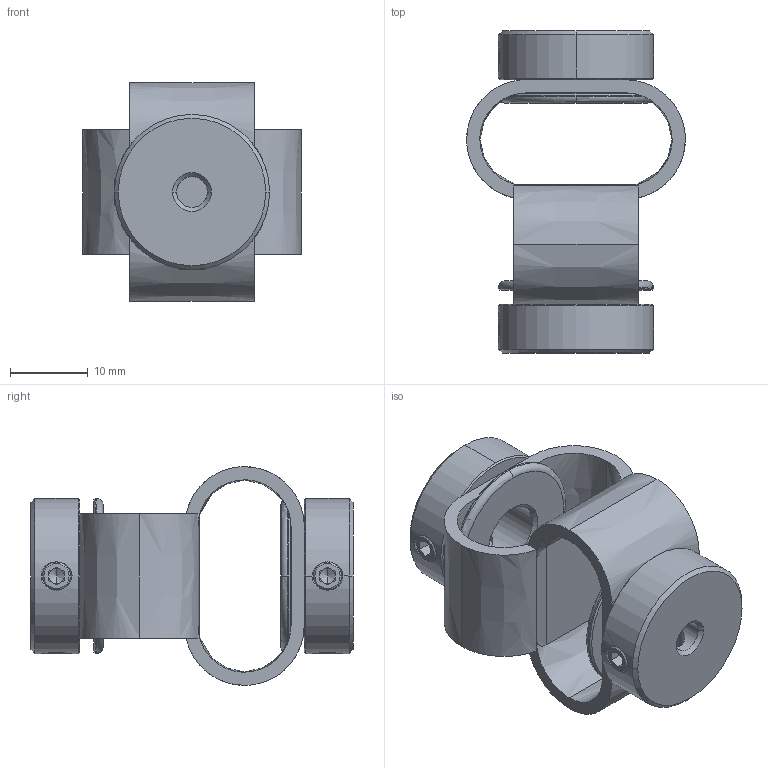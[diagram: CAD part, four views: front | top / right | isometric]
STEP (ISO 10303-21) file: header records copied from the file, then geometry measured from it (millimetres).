
FILE_DESCRIPTION (( 'STEP AP203' ), '1' );
FILE_NAME ('LS-D-D27L40-4-8.STEP', '2021-10-28T06:05:53', ( '' ), ( '' ), 'SwSTEP 2.0', 'SolidWorks 2018', '' );
FILE_SCHEMA (( 'CONFIG_CONTROL_DESIGN' ));
Length unit declared in the file: millimetre
Products named in the file (1): LS-D-D27L40-4-8
Bounding box: 28.2 x 41.54 x 28.2 mm (x, y, z)
Volume: 7249.3 mm3; surface area: 6683.6 mm2
Topology: 1 solids, 1 shells, 190 faces, 493 edges, 308 vertices
Faces by surface type: plane 86, cone 54, cylinder 30, bspline 16, torus 4
Entity records: 7788 total; most frequent: CARTESIAN_POINT 3219, ORIENTED_EDGE 970, DIRECTION 886, EDGE_CURVE 485, AXIS2_PLACEMENT_3D 345, VERTEX_POINT 308, EDGE_LOOP 217, VECTOR 196
